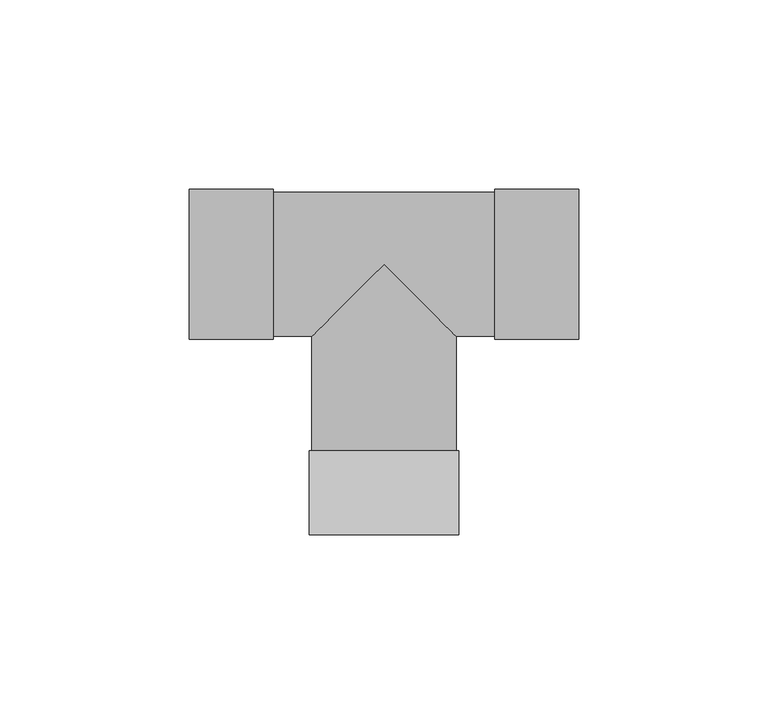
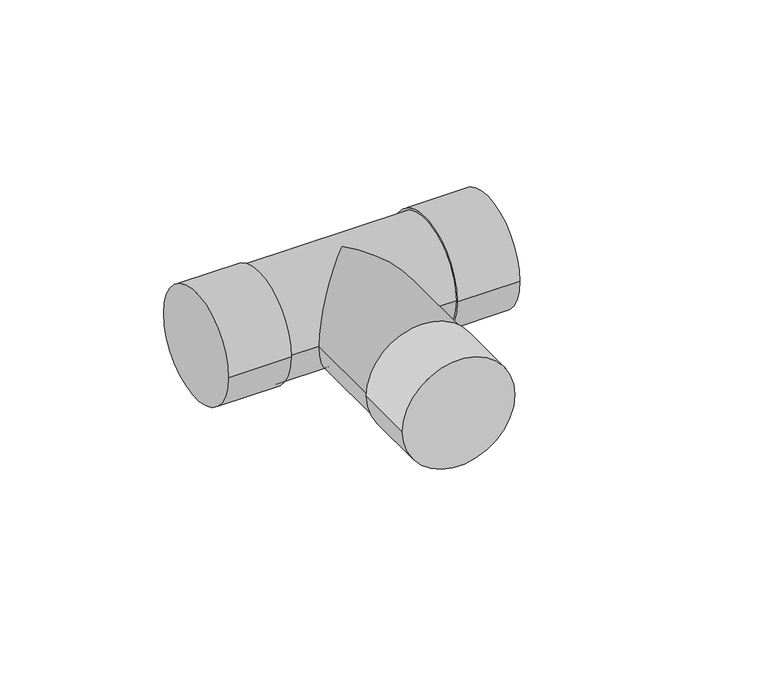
"""IFC4 building model written with IfcOpenShell, lengths in millimetres: pipe fitting geometry, Tê - Soldado - CU : Padrão."""

from ifc_helpers import new_model, si_unit, frame, origin, place, context, project, spatial, circle_curve, ellipse_curve, source, transform, mapped, element, save
from ifc_brep_helpers import plane_surface, cylinder_surface, advanced_brep


def pipe_fitting_42d5aa89(model_context):
    return source(origin(), model_context, "Body", "AdvancedBrep", [
        advanced_brep(
        [(19.8009971, -71.3780008, 0.0), (-19.8010029, -71.3779992, 0.0), (19.800998, -49.2610008, 0.0), (-19.801002, -49.2609992, 0.0), (19.049998, -49.2610008, 0.0), (-19.050002, -49.2609992, 0.0), (-51.4225, -19.801, 0.0), (-51.4225, 19.801, 0.0), (-29.3055, -19.801, 0.0), (-29.3055, 19.801, 0.0), (-29.3055, -19.05, 0.0), (-29.3055, 19.05, 0.0), (29.3055, 19.05, 0.0), (-19.0500008, -19.05, 0.0), (0.0, 0.0, 19.05), (19.0499992, -19.05, 0.0), (29.3055, -19.05, 0.0), (0.0, 0.0, -19.05), (29.3055, -19.801, 0.0), (29.3055, 19.801, 0.0), (51.4225, -19.801, 0.0), (51.4225, 19.801, 0.0)],
        [
            (0, 1, circle_curve(frame((-2.9e-06, -71.378, 0.0), z_axis=(-4.114826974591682e-08, -0.9999999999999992, 0.0), x_axis=(-0.9999999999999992, 4.114826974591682e-08, 0.0)), 19.801)),
            (1, 0, circle_curve(frame((-2.9e-06, -71.378, 0.0), z_axis=(-4.114826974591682e-08, -0.9999999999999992, 0.0), x_axis=(-0.9999999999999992, 4.114826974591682e-08, 0.0)), 19.801)),
            (2, 3, circle_curve(frame((-2e-06, -49.261, 0.0), z_axis=(4.114826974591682e-08, 0.9999999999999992, 0.0), x_axis=(-0.9999999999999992, 4.114826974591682e-08, 0.0)), 19.801)),
            (3, 2, circle_curve(frame((-2e-06, -49.261, 0.0), z_axis=(4.114826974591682e-08, 0.9999999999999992, 0.0), x_axis=(-0.9999999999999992, 4.114826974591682e-08, 0.0)), 19.801)),
            (4, 5, circle_curve(frame((-2e-06, -49.261, 0.0), z_axis=(-4.1148266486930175e-08, -0.9999999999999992, 0.0), x_axis=(0.9999999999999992, -4.1148266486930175e-08, 0.0)), 19.05)),
            (5, 4, circle_curve(frame((-2e-06, -49.261, 0.0), z_axis=(-4.1148266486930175e-08, -0.9999999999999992, 0.0), x_axis=(0.9999999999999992, -4.1148266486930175e-08, 0.0)), 19.05)),
            (0, 2),
            (3, 1),
            (6, 7, circle_curve(frame((-51.4225, 0.0, 0.0), z_axis=(-1.0, 0.0, 0.0), x_axis=(0.0, 1.0, 0.0)), 19.801)),
            (7, 6, circle_curve(frame((-51.4225, 0.0, 0.0), z_axis=(-1.0, 0.0, 0.0), x_axis=(0.0, 1.0, 0.0)), 19.801)),
            (8, 9, circle_curve(frame((-29.3055, 0.0, 0.0), z_axis=(1.0, 0.0, 0.0), x_axis=(0.0, 1.0, 0.0)), 19.801)),
            (9, 8, circle_curve(frame((-29.3055, 0.0, 0.0), z_axis=(1.0, 0.0, 0.0), x_axis=(0.0, 1.0, 0.0)), 19.801)),
            (10, 11, circle_curve(frame((-29.3055, 0.0, 0.0), z_axis=(-1.0, 0.0, 0.0), x_axis=(0.0, 1.0, 0.0)), 19.05)),
            (11, 10, circle_curve(frame((-29.3055, 0.0, 0.0), z_axis=(-1.0, 0.0, 0.0), x_axis=(0.0, 1.0, 0.0)), 19.05)),
            (6, 8),
            (9, 7),
            (12, 11),
            (10, 13),
            (13, 14, ellipse_curve(frame((0.0, 0.0, 0.0), z_axis=(-0.7071067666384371, 0.7071067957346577, 0.0), x_axis=(-0.7071067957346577, -0.7071067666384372, 0.0)), 26.9407689, 19.05)),
            (14, 15, ellipse_curve(frame((0.0, 0.0, 0.0), z_axis=(0.7071067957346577, 0.7071067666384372, 0.0), x_axis=(-0.707106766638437, 0.7071067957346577, 0.0)), 26.9407678, 19.05)),
            (15, 16),
            (16, 12, circle_curve(frame((29.3055, 0.0, 0.0), z_axis=(-1.0, 0.0, 0.0), x_axis=(0.0, 1.0, 0.0)), 19.05)),
            (12, 16, circle_curve(frame((29.3055, 0.0, 0.0), z_axis=(-1.0, 0.0, 0.0), x_axis=(0.0, 1.0, 0.0)), 19.05)),
            (15, 17, ellipse_curve(frame((0.0, 0.0, 0.0), z_axis=(0.7071067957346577, 0.7071067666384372, 0.0), x_axis=(-0.707106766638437, 0.7071067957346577, 0.0)), 26.9407678, 19.05)),
            (17, 13, ellipse_curve(frame((0.0, 0.0, 0.0), z_axis=(-0.7071067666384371, 0.7071067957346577, 0.0), x_axis=(-0.7071067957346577, -0.7071067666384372, 0.0)), 26.9407689, 19.05)),
            (18, 19, circle_curve(frame((29.3055, 0.0, 0.0), z_axis=(-1.0, 0.0, 0.0), x_axis=(0.0, 1.0, 0.0)), 19.801)),
            (19, 18, circle_curve(frame((29.3055, 0.0, 0.0), z_axis=(-1.0, 0.0, 0.0), x_axis=(0.0, 1.0, 0.0)), 19.801)),
            (20, 21, circle_curve(frame((51.4225, 0.0, 0.0), z_axis=(1.0, 0.0, 0.0), x_axis=(0.0, 1.0, 0.0)), 19.801)),
            (21, 20, circle_curve(frame((51.4225, 0.0, 0.0), z_axis=(1.0, 0.0, 0.0), x_axis=(0.0, 1.0, 0.0)), 19.801)),
            (18, 20),
            (21, 19),
            (4, 15),
            (13, 5),
        ],
        [
            plane_surface(frame((-2.9e-06, -71.378, 0.0), z_axis=(-4.114826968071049e-08, -0.9999999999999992, 0.0), x_axis=(0.0, 0.0, 1.0))),
            plane_surface(frame((-2e-06, -49.261, 0.0), z_axis=(4.114826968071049e-08, 0.9999999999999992, 0.0), x_axis=(0.0, 0.0, 1.0))),
            cylinder_surface(frame((-2.9e-06, -71.378, 0.0), z_axis=(-4.114826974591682e-08, -0.9999999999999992, 0.0), x_axis=(-0.9999999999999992, 4.114826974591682e-08, 0.0)), 19.801),
            plane_surface(frame((-51.4225, 0.0, 0.0), z_axis=(-1.0, 0.0, 0.0), x_axis=(0.0, 0.0, 1.0))),
            plane_surface(frame((-29.3055, 0.0, 0.0), z_axis=(1.0, 0.0, 0.0), x_axis=(0.0, 0.0, 1.0))),
            cylinder_surface(frame((-51.4225, 0.0, 0.0), z_axis=(-1.0, 0.0, 0.0), x_axis=(0.0, 1.0, 0.0)), 19.801),
            cylinder_surface(frame((-29.3055, 0.0, 0.0), z_axis=(-1.0, 0.0, 0.0), x_axis=(0.0, 1.0, 0.0)), 19.05),
            plane_surface(frame((29.3055, 0.0, 0.0), z_axis=(-1.0, 0.0, 0.0), x_axis=(0.0, 0.0, 1.0))),
            plane_surface(frame((51.4225, 0.0, 0.0), z_axis=(1.0, 0.0, 0.0), x_axis=(0.0, 0.0, 1.0))),
            cylinder_surface(frame((29.3055, 0.0, 0.0), z_axis=(-1.0, 0.0, 0.0), x_axis=(0.0, 1.0, 0.0)), 19.801),
            cylinder_surface(frame((0.0, 0.0, 0.0), z_axis=(4.1148266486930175e-08, 0.9999999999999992, 0.0), x_axis=(0.9999999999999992, -4.1148266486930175e-08, 0.0)), 19.05),
        ],
        [
            (0, [[1, 2]]),
            (1, [[3, 4], [5, 6]]),
            (2, [[-1, 7, -4, 8]]),
            (2, [[-2, -8, -3, -7]]),
            (3, [[9, 10]]),
            (4, [[11, 12], [13, 14]]),
            (5, [[-9, 15, -12, 16]]),
            (5, [[-10, -16, -11, -15]]),
            (6, [[17, -13, 18, 19, 20, 21, 22]]),
            (6, [[-17, 23, -21, 24, 25, -18, -14]]),
            (7, [[26, 27], [-22, -23]]),
            (8, [[28, 29]]),
            (9, [[-26, 30, -29, 31]]),
            (9, [[-27, -31, -28, -30]]),
            (10, [[32, -20, -19, 33, -5]]),
            (10, [[-32, -6, -33, -25, -24]]),
        ],
    ),
    ])


if __name__ == "__main__":
    model = new_model("IFC4")
    model_context = context("Model", 3, world=origin())
    ifc_project = project(units=[si_unit("LENGTHUNIT", "METRE", prefix="MILLI")], contexts=[model_context])
    site = spatial("IfcSite", under=ifc_project)
    building = spatial("IfcBuilding", under=site)
    placement = place(None, origin())
    pipe_fitting_shape = pipe_fitting_42d5aa89(model_context)
    element("IfcPipeFitting", 1, ObjectType="Tê - Soldado - CU : Padrão", at=placement, inside=building, context=model_context, shape_type="MappedRepresentation", body=[
        mapped(pipe_fitting_shape, transform((0.0, 0.0, 0.0), x_axis=(1.0, 0.0, 0.0), y_axis=(0.0, 1.0, 0.0), z_axis=(0.0, 0.0, 1.0))),
    ])
    save(model, "model.ifc")
